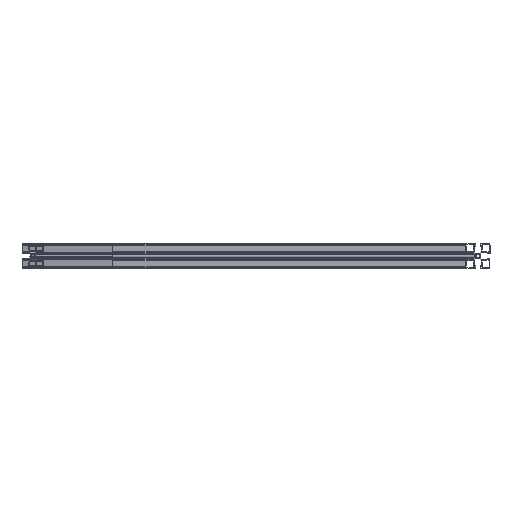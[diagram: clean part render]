
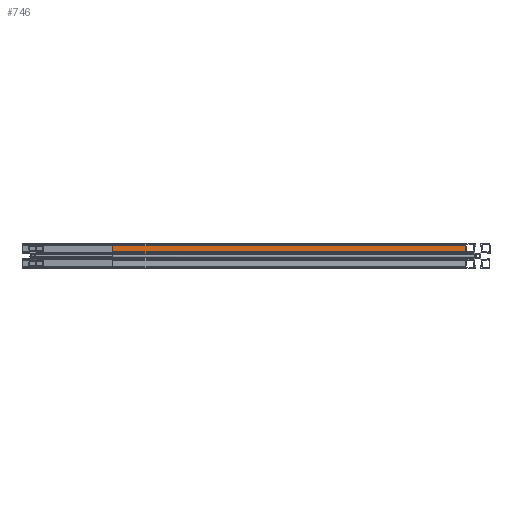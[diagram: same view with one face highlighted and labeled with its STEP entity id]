
A CAD part, left-side view. The second image highlights one B-rep face of the part: STEP entity #746.
In plain terms, the highlighted planar face has unit normal (-1, 0, 0).
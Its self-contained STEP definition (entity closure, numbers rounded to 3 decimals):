
#710 = ORIENTED_EDGE ( 'NONE', *, *, #738, .F. ) ;
#724 = EDGE_CURVE ( 'NONE', #1081, #726, #4915, .T. ) ;
#726 = VERTEX_POINT ( 'NONE', #5120 ) ;
#736 = VERTEX_POINT ( 'NONE', #5207 ) ;
#737 = EDGE_LOOP ( 'NONE', ( #710, #747, #743, #742 ) ) ;
#738 = EDGE_CURVE ( 'NONE', #726, #736, #5203, .T. ) ;
#742 = ORIENTED_EDGE ( 'NONE', *, *, #748, .T. ) ;
#743 = ORIENTED_EDGE ( 'NONE', *, *, #1089, .F. ) ;
#746 = ADVANCED_FACE ( 'NONE', ( #5246 ), #5244, .F. ) ;
#747 = ORIENTED_EDGE ( 'NONE', *, *, #724, .F. ) ;
#748 = EDGE_CURVE ( 'NONE', #1043, #736, #5238, .T. ) ;
#1043 = VERTEX_POINT ( 'NONE', #5613 ) ;
#1081 = VERTEX_POINT ( 'NONE', #5675 ) ;
#1089 = EDGE_CURVE ( 'NONE', #1043, #1081, #5709, .T. ) ;
#4911 = CARTESIAN_POINT ( 'NONE',  ( 170., 672.5, 20. ) ) ;
#4914 = VECTOR ( 'NONE', #4921, 1000. ) ;
#4915 = LINE ( 'NONE', #4911, #4914 ) ;
#4921 = DIRECTION ( 'NONE',  ( 0., -1., 0. ) ) ;
#5120 = CARTESIAN_POINT ( 'NONE',  ( 170., 22.5, 20. ) ) ;
#5191 = DIRECTION ( 'NONE',  ( 0., 0., -1. ) ) ;
#5192 = VECTOR ( 'NONE', #5191, 1000. ) ;
#5193 = CARTESIAN_POINT ( 'NONE',  ( 170., 22.5, 4.151 ) ) ;
#5203 = LINE ( 'NONE', #5193, #5192 ) ;
#5207 = CARTESIAN_POINT ( 'NONE',  ( 170., 22.5, 4.151 ) ) ;
#5235 = DIRECTION ( 'NONE',  ( 0., -1., 0. ) ) ;
#5236 = VECTOR ( 'NONE', #5235, 1000. ) ;
#5237 = CARTESIAN_POINT ( 'NONE',  ( 170., 672.5, 4.151 ) ) ;
#5238 = LINE ( 'NONE', #5237, #5236 ) ;
#5240 = DIRECTION ( 'NONE',  ( 0., 0., -1. ) ) ;
#5241 = DIRECTION ( 'NONE',  ( 1., 0., 0. ) ) ;
#5242 = CARTESIAN_POINT ( 'NONE',  ( 170., 672.5, 4.151 ) ) ;
#5243 = AXIS2_PLACEMENT_3D ( 'NONE', #5242, #5241, #5240 ) ;
#5244 = PLANE ( 'NONE',  #5243 ) ;
#5246 = FACE_OUTER_BOUND ( 'NONE', #737, .T. ) ;
#5613 = CARTESIAN_POINT ( 'NONE',  ( 170., 672.5, 4.151 ) ) ;
#5653 = CARTESIAN_POINT ( 'NONE',  ( 170., 672.5, 4.151 ) ) ;
#5675 = CARTESIAN_POINT ( 'NONE',  ( 170., 672.5, 20. ) ) ;
#5707 = DIRECTION ( 'NONE',  ( 0., 0., 1. ) ) ;
#5708 = VECTOR ( 'NONE', #5707, 1000. ) ;
#5709 = LINE ( 'NONE', #5653, #5708 ) ;
